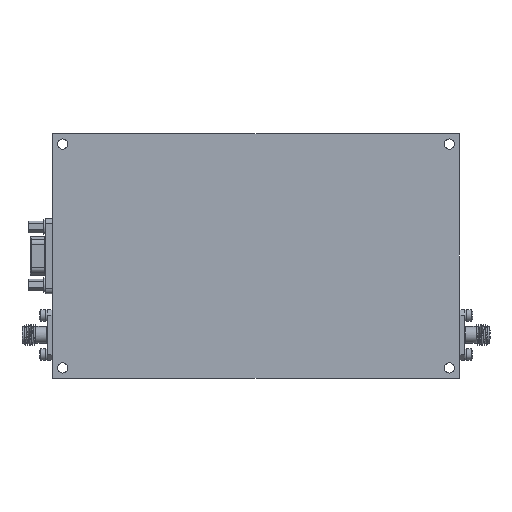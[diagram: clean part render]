
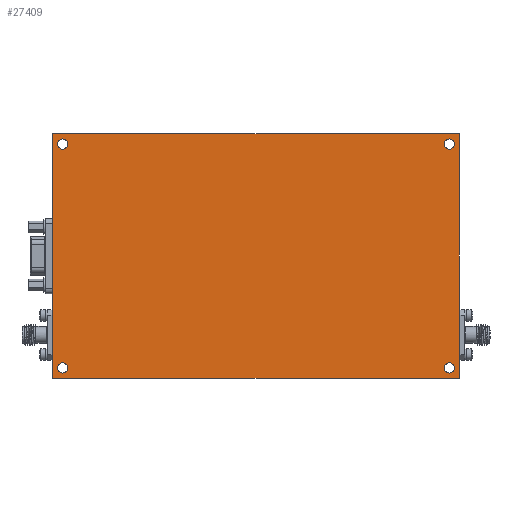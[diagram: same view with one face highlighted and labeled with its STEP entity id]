
A CAD part, front view. The second image highlights one B-rep face of the part: STEP entity #27409.
In plain terms, the highlighted planar face has unit normal (0, -1, 0).
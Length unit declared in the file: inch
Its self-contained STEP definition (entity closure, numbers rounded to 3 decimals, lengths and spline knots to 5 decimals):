
#877 = EDGE_LOOP ( 'NONE', ( #59638 ) ) ;
#1139 = AXIS2_PLACEMENT_3D ( 'NONE', #18196, #54624, #66729 ) ;
#2105 = VECTOR ( 'NONE', #45434, 39.37008 ) ;
#3172 = LINE ( 'NONE', #66061, #46481 ) ;
#3823 = CARTESIAN_POINT ( 'NONE',  ( 2.375, 0., -1.3125 ) ) ;
#4191 = EDGE_CURVE ( 'NONE', #51475, #51475, #46134, .T. ) ;
#4461 = ORIENTED_EDGE ( 'NONE', *, *, #49658, .F. ) ;
#4816 = DIRECTION ( 'NONE',  ( 0., 0., 1. ) ) ;
#5172 = DIRECTION ( 'NONE',  ( 0., 1., 0. ) ) ;
#5838 = AXIS2_PLACEMENT_3D ( 'NONE', #10410, #19864, #4816 ) ;
#6661 = VERTEX_POINT ( 'NONE', #38245 ) ;
#7815 = EDGE_LOOP ( 'NONE', ( #40854 ) ) ;
#8300 = AXIS2_PLACEMENT_3D ( 'NONE', #9729, #5172, #68055 ) ;
#8358 = EDGE_CURVE ( 'NONE', #6661, #25275, #3172, .T. ) ;
#9639 = EDGE_CURVE ( 'NONE', #25275, #17372, #15122, .T. ) ;
#9729 = CARTESIAN_POINT ( 'NONE',  ( 2.375, 0., -1.375 ) ) ;
#10410 = CARTESIAN_POINT ( 'NONE',  ( 2.375, 0., 1.375 ) ) ;
#11722 = CARTESIAN_POINT ( 'NONE',  ( 2.5, 0., 1.5 ) ) ;
#12544 = CARTESIAN_POINT ( 'NONE',  ( 2.5, 0., -1.5 ) ) ;
#13283 = EDGE_CURVE ( 'NONE', #52475, #52475, #43462, .T. ) ;
#14321 = FACE_BOUND ( 'NONE', #877, .T. ) ;
#15122 = LINE ( 'NONE', #20352, #36669 ) ;
#15717 = CARTESIAN_POINT ( 'NONE',  ( 0., 0., 0. ) ) ;
#16412 = CARTESIAN_POINT ( 'NONE',  ( -2.5, 0., 1.5 ) ) ;
#17372 = VERTEX_POINT ( 'NONE', #12544 ) ;
#18196 = CARTESIAN_POINT ( 'NONE',  ( -2.375, 0., 1.375 ) ) ;
#18922 = EDGE_LOOP ( 'NONE', ( #35943, #56283, #60099, #4461 ) ) ;
#19864 = DIRECTION ( 'NONE',  ( 0., 1., 0. ) ) ;
#20352 = CARTESIAN_POINT ( 'NONE',  ( 2.5, 0., 1.5 ) ) ;
#21963 = DIRECTION ( 'NONE',  ( 0., 0., 1. ) ) ;
#24919 = DIRECTION ( 'NONE',  ( 0., 0., 1. ) ) ;
#25275 = VERTEX_POINT ( 'NONE', #11722 ) ;
#26345 = AXIS2_PLACEMENT_3D ( 'NONE', #47122, #68231, #24919 ) ;
#26724 = CARTESIAN_POINT ( 'NONE',  ( -2.5, 0., -1.5 ) ) ;
#27409 = ADVANCED_FACE ( 'NONE', ( #14321, #36552, #30976, #62225, #42135 ), #68418, .T. ) ;
#29455 = CARTESIAN_POINT ( 'NONE',  ( -2.5, 0., -1.5 ) ) ;
#29691 = EDGE_CURVE ( 'NONE', #34225, #6661, #58398, .T. ) ;
#30976 = FACE_BOUND ( 'NONE', #7815, .T. ) ;
#31149 = ORIENTED_EDGE ( 'NONE', *, *, #13283, .T. ) ;
#31909 = CIRCLE ( 'NONE', #26345, 0.0625 ) ;
#34225 = VERTEX_POINT ( 'NONE', #26724 ) ;
#35943 = ORIENTED_EDGE ( 'NONE', *, *, #9639, .F. ) ;
#36552 = FACE_BOUND ( 'NONE', #63727, .T. ) ;
#36650 = DIRECTION ( 'NONE',  ( 0., 0., -1. ) ) ;
#36669 = VECTOR ( 'NONE', #36650, 39.37008 ) ;
#37737 = VERTEX_POINT ( 'NONE', #64383 ) ;
#38245 = CARTESIAN_POINT ( 'NONE',  ( -2.5, 0., 1.5 ) ) ;
#38443 = AXIS2_PLACEMENT_3D ( 'NONE', #15717, #41097, #41470 ) ;
#38851 = LINE ( 'NONE', #29455, #2105 ) ;
#39044 = DIRECTION ( 'NONE',  ( 1., 0., 0. ) ) ;
#40854 = ORIENTED_EDGE ( 'NONE', *, *, #64909, .T. ) ;
#41075 = VECTOR ( 'NONE', #21963, 39.37008 ) ;
#41097 = DIRECTION ( 'NONE',  ( 0., -1., 0. ) ) ;
#41470 = DIRECTION ( 'NONE',  ( 0., 0., -1. ) ) ;
#42135 = FACE_OUTER_BOUND ( 'NONE', #18922, .T. ) ;
#43458 = EDGE_CURVE ( 'NONE', #62052, #62052, #31909, .T. ) ;
#43462 = CIRCLE ( 'NONE', #1139, 0.0625 ) ;
#45434 = DIRECTION ( 'NONE',  ( -1., 0., 0. ) ) ;
#45777 = CARTESIAN_POINT ( 'NONE',  ( -2.375, 0., -1.3125 ) ) ;
#46134 = CIRCLE ( 'NONE', #8300, 0.0625 ) ;
#46481 = VECTOR ( 'NONE', #39044, 39.37008 ) ;
#47122 = CARTESIAN_POINT ( 'NONE',  ( -2.375, 0., -1.375 ) ) ;
#49658 = EDGE_CURVE ( 'NONE', #17372, #34225, #38851, .T. ) ;
#51475 = VERTEX_POINT ( 'NONE', #3823 ) ;
#52475 = VERTEX_POINT ( 'NONE', #63556 ) ;
#54624 = DIRECTION ( 'NONE',  ( 0., 1., 0. ) ) ;
#56283 = ORIENTED_EDGE ( 'NONE', *, *, #8358, .F. ) ;
#57974 = ORIENTED_EDGE ( 'NONE', *, *, #4191, .T. ) ;
#58398 = LINE ( 'NONE', #16412, #41075 ) ;
#59638 = ORIENTED_EDGE ( 'NONE', *, *, #43458, .T. ) ;
#60099 = ORIENTED_EDGE ( 'NONE', *, *, #29691, .F. ) ;
#62052 = VERTEX_POINT ( 'NONE', #45777 ) ;
#62225 = FACE_BOUND ( 'NONE', #62636, .T. ) ;
#62636 = EDGE_LOOP ( 'NONE', ( #31149 ) ) ;
#63556 = CARTESIAN_POINT ( 'NONE',  ( -2.375, 0., 1.4375 ) ) ;
#63727 = EDGE_LOOP ( 'NONE', ( #57974 ) ) ;
#64383 = CARTESIAN_POINT ( 'NONE',  ( 2.375, 0., 1.4375 ) ) ;
#64909 = EDGE_CURVE ( 'NONE', #37737, #37737, #65752, .T. ) ;
#65752 = CIRCLE ( 'NONE', #5838, 0.0625 ) ;
#66061 = CARTESIAN_POINT ( 'NONE',  ( -2.5, 0., 1.5 ) ) ;
#66729 = DIRECTION ( 'NONE',  ( 0., 0., 1. ) ) ;
#68055 = DIRECTION ( 'NONE',  ( 0., 0., 1. ) ) ;
#68231 = DIRECTION ( 'NONE',  ( 0., 1., 0. ) ) ;
#68418 = PLANE ( 'NONE',  #38443 ) ;
